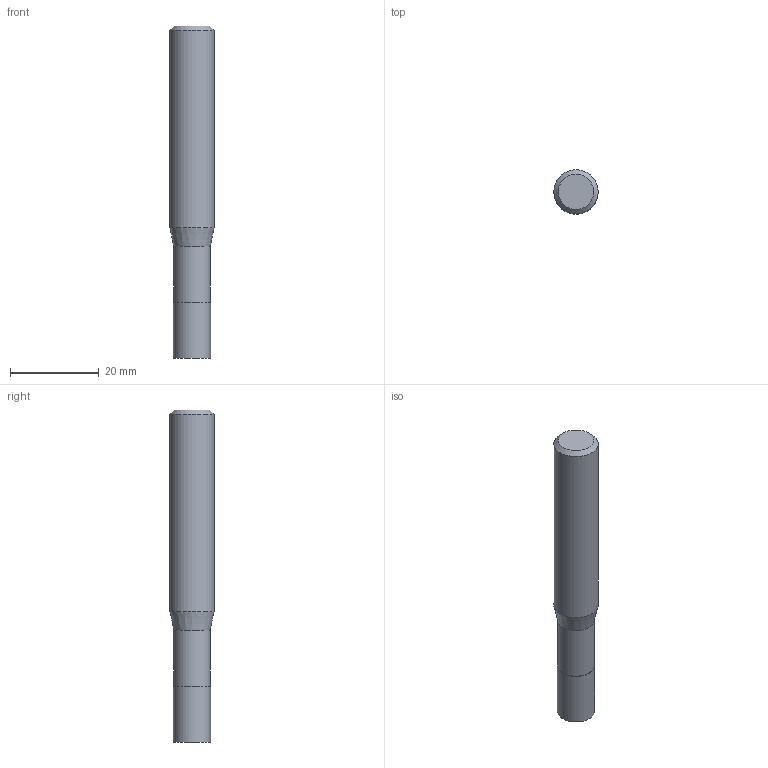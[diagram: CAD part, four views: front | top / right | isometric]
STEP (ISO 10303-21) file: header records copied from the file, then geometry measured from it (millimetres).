
FILE_DESCRIPTION((''),'2;1');
FILE_NAME('C:\Users\nsx150\AppData\Local\Temp\Mastercam 2021\EUJSUNXURU\TEMP.step','2021-04-22T10:29:30',(''),(''),'STEP Write','Mastercam 2021 ... CNC Software, Inc.','');
FILE_SCHEMA(('AUTOMOTIVE_DESIGN'));
Length unit declared in the file: millimetre
Products named in the file (1): None
Bounding box: 10 x 10 x 75 mm (x, y, z)
Volume: 5204 mm3; surface area: 2434.8 mm2
Topology: 2 solids, 2 shells, 9 faces, 12 edges, 7 vertices
Faces by surface type: plane 4, cylinder 3, cone 2
Full cylindrical faces by diameter (mm): 8.2 x1, 8.4 x1, 10 x1
Entity records: 211 total; most frequent: DIRECTION 36, CARTESIAN_POINT 25, AXIS2_PLACEMENT_3D 18, ORIENTED_EDGE 14, EDGE_LOOP 14, STYLED_ITEM 12, ADVANCED_FACE 9, FACE_BOUND 8
